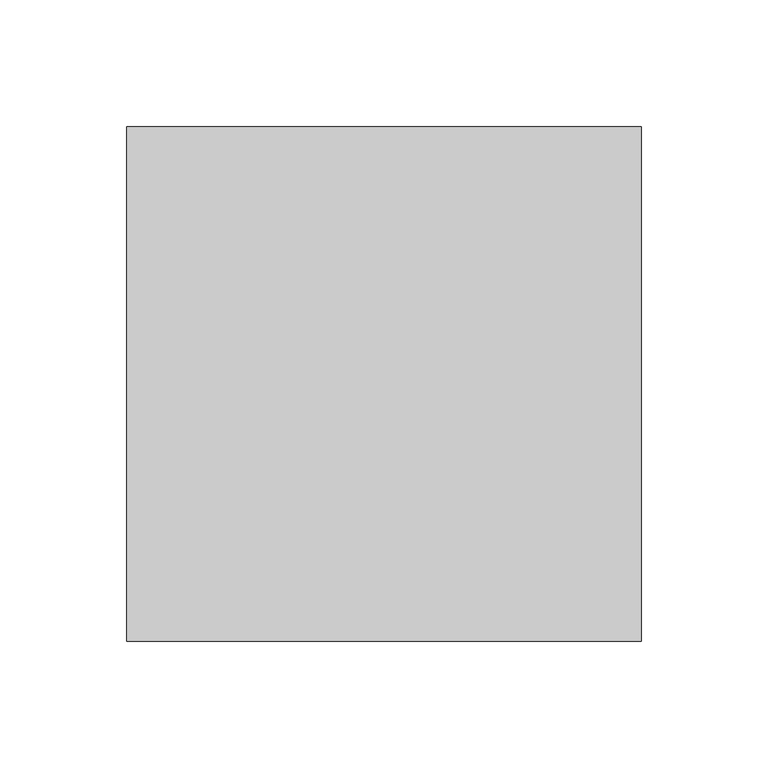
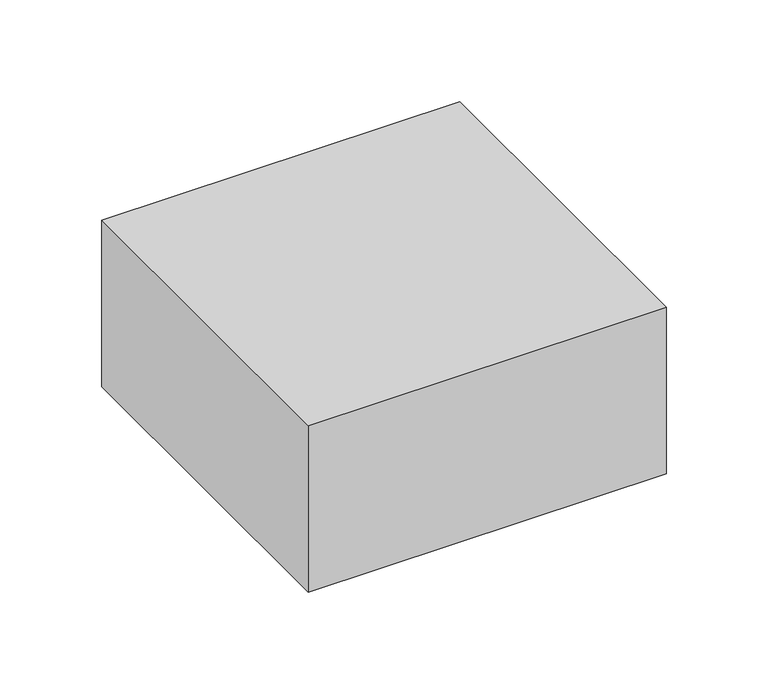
"""IFC4 building model written with IfcOpenShell, lengths in millimetres: proxy geometry, Placeholder_Polyseam : Placeholder_Polyseam."""

from ifc_helpers import new_model, si_unit, origin, origin_with_axes, place, context, project, spatial, polyline, outline, extrude, source, transform, mapped, element, save


def generic_models_50af6dd3(model_context):
    return source(origin(), model_context, "Body", "SweptSolid", [
        extrude(outline(polyline([(-101.6, 101.6), (101.6, 101.6), (101.6, -101.6), (-101.6, -101.6), (-101.6, 101.6)])), origin_with_axes(), (0.0, 0.0, 1.0), 100.0),
    ])


if __name__ == "__main__":
    model = new_model("IFC4")
    model_context = context("Model", 3, world=origin())
    ifc_project = project(units=[si_unit("LENGTHUNIT", "METRE", prefix="MILLI")], contexts=[model_context])
    site = spatial("IfcSite", under=ifc_project)
    building = spatial("IfcBuilding", under=site)
    placement = place(None, origin())
    generic_models_shape = generic_models_50af6dd3(model_context)
    element("IfcBuildingElementProxy", 1, Name="Placeholder_Polyseam : Placeholder_Polyseam", ObjectType="Placeholder_Polyseam : Placeholder_Polyseam", at=placement, inside=building, context=model_context, shape_type="MappedRepresentation", body=[
        mapped(generic_models_shape, transform((0.0, 0.0, 0.0), x_axis=(1.0, 0.0, 0.0), y_axis=(0.0, 1.0, 0.0), z_axis=(0.0, 0.0, 1.0))),
    ])
    save(model, "model.ifc")
